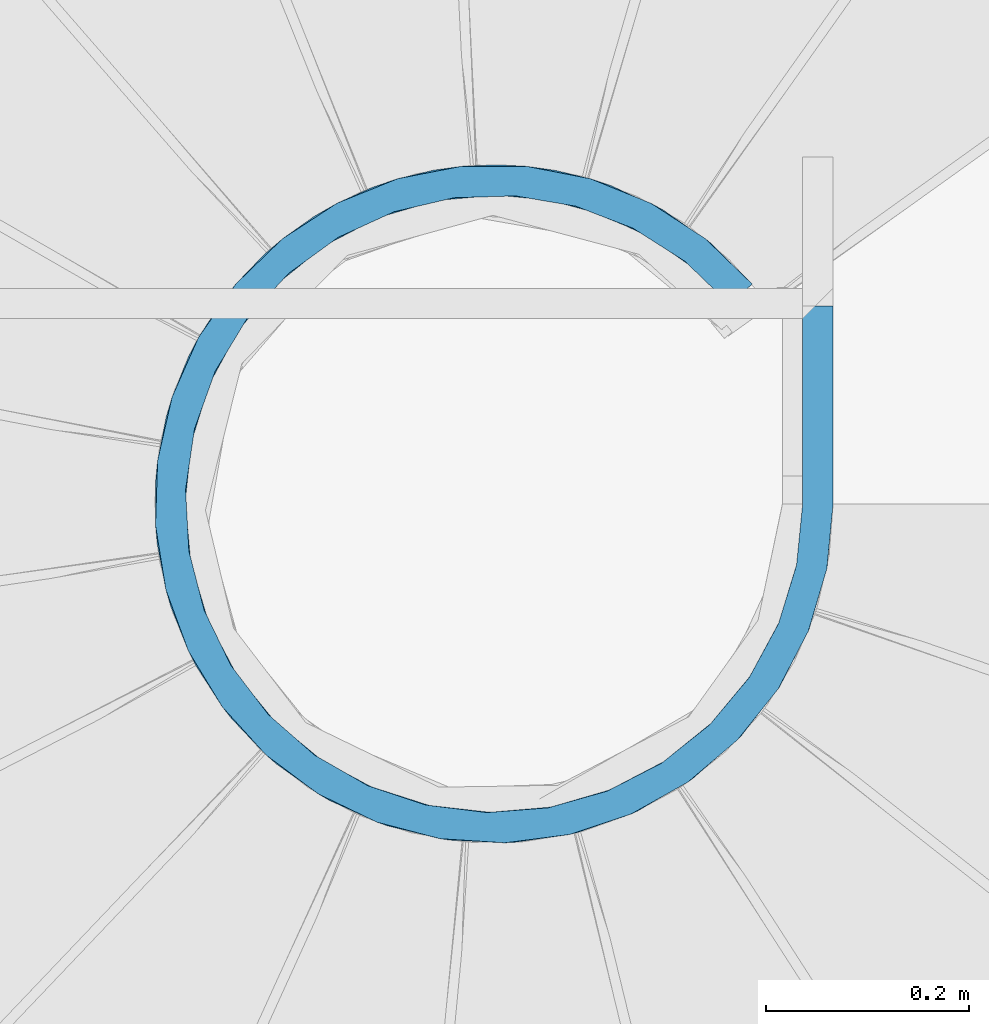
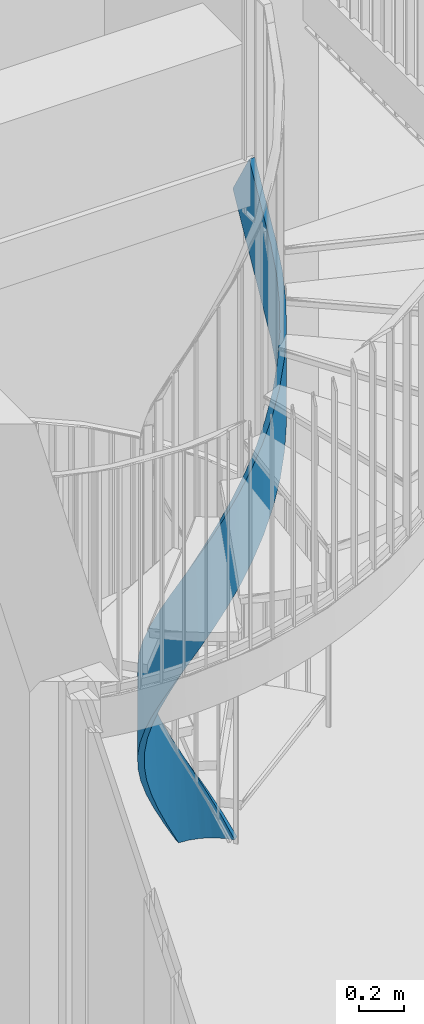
# One storey, part 14 of 21: 1 member, 1 element without a shape of its own.
"""IFC2X3 building model written with IfcOpenShell, lengths in millimetres."""

from ifc_helpers import new_model, entity, si_unit, converted_unit, derived_unit, direction, frame, origin, place, context, subcontext, project, spatial, faceted_brep, material, type_object, element, aggregate, save


model = new_model("IFC2X3")

# Units and contexts
model_context = context("Model", 3, precision=0.01, world=origin(), true_north=direction((6.12303176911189e-17, 1.0)))
body_context = subcontext(model_context, "Body", "Model", "MODEL_VIEW")
ifc_project = project(units=[si_unit("LENGTHUNIT", "METRE", prefix="MILLI"), si_unit("AREAUNIT", "SQUARE_METRE"), si_unit("VOLUMEUNIT", "CUBIC_METRE"), converted_unit("PLANEANGLEUNIT", "DEGREE", entity("IfcRatioMeasure", 0.0174532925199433), si_unit("PLANEANGLEUNIT", "RADIAN"), dimensions=[0, 0, 0, 0, 0, 0, 0]), si_unit("MASSUNIT", "GRAM", prefix="KILO"), derived_unit("MASSDENSITYUNIT", [(si_unit("MASSUNIT", "GRAM", prefix="KILO"), 1), (si_unit("LENGTHUNIT", "METRE"), -3)]), derived_unit("MOMENTOFINERTIAUNIT", [(si_unit("LENGTHUNIT", "METRE"), 4)]), si_unit("TIMEUNIT", "SECOND"), si_unit("FREQUENCYUNIT", "HERTZ"), si_unit("THERMODYNAMICTEMPERATUREUNIT", "DEGREE_CELSIUS"), derived_unit("THERMALTRANSMITTANCEUNIT", [(si_unit("MASSUNIT", "GRAM", prefix="KILO"), 1), (si_unit("THERMODYNAMICTEMPERATUREUNIT", "KELVIN"), -1), (si_unit("TIMEUNIT", "SECOND"), -3)]), derived_unit("VOLUMETRICFLOWRATEUNIT", [(si_unit("LENGTHUNIT", "METRE"), 3), (si_unit("TIMEUNIT", "SECOND"), -1)]), si_unit("ELECTRICCURRENTUNIT", "AMPERE"), si_unit("ELECTRICVOLTAGEUNIT", "VOLT"), si_unit("POWERUNIT", "WATT"), si_unit("FORCEUNIT", "NEWTON", prefix="KILO"), si_unit("ILLUMINANCEUNIT", "LUX"), si_unit("LUMINOUSFLUXUNIT", "LUMEN"), si_unit("LUMINOUSINTENSITYUNIT", "CANDELA"), derived_unit("USERDEFINED", [(si_unit("MASSUNIT", "GRAM", prefix="KILO"), -1), (si_unit("LENGTHUNIT", "METRE"), -2), (si_unit("TIMEUNIT", "SECOND"), 3), (si_unit("LUMINOUSFLUXUNIT", "LUMEN"), 1)]), derived_unit("LINEARVELOCITYUNIT", [(si_unit("LENGTHUNIT", "METRE"), 1), (si_unit("TIMEUNIT", "SECOND"), -1)]), si_unit("PRESSUREUNIT", "PASCAL"), derived_unit("USERDEFINED", [(si_unit("LENGTHUNIT", "METRE"), -2), (si_unit("MASSUNIT", "GRAM", prefix="KILO"), 1), (si_unit("TIMEUNIT", "SECOND"), -2)]), derived_unit("LINEARFORCEUNIT", [(si_unit("MASSUNIT", "GRAM", prefix="KILO"), 1), (si_unit("LENGTHUNIT", "METRE"), 1), (si_unit("TIMEUNIT", "SECOND"), -2), (si_unit("LENGTHUNIT", "METRE"), -1)]), derived_unit("PLANARFORCEUNIT", [(si_unit("MASSUNIT", "GRAM", prefix="KILO"), 1), (si_unit("LENGTHUNIT", "METRE"), 1), (si_unit("TIMEUNIT", "SECOND"), -2), (si_unit("LENGTHUNIT", "METRE"), -2)])], contexts=[model_context])

# Site, building, storey
site_placement = place(None, origin())
site = spatial("IfcSite", under=ifc_project, at=site_placement, Name="<Kadaster Gemeente>;<Kadaster nummer>;<Kadaster sectie>", CompositionType="ELEMENT")
building_placement = place(site_placement, origin())
building = spatial("IfcBuilding", under=site, at=building_placement, Name="JRCZ Middelburg", CompositionType="ELEMENT")
storey_placement = place(building_placement, origin())
storey = spatial("IfcBuildingStorey", under=building, at=storey_placement, Name="00 begane grond", CompositionType="ELEMENT", Elevation=0.0)

# Stair, member
stair_placement = place(storey_placement, origin())
stair = element("IfcStair", 1, at=stair_placement, inside=storey, Name="Assembled Stair:Stair", ObjectType="Assembled Stair:Vluchttrap", ShapeType="SPIRAL_STAIR")
ifc_material = material(Name="<Unnamed>")
member_type = type_object("IfcMemberType", Name="Stringer:Stringer - vluchttrap", PredefinedType="STRINGER")
member_placement = place(stair_placement, frame((18388.148509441, 22525.5856694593, -1.5952722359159)))
member = element("IfcMember", 2, at=member_placement, type_object=member_type, material=ifc_material, Name="Assembled Stair:Stair:2451970 Stringer 1", ObjectType="Stringer:Stringer - vluchttrap", context=body_context, shape_type="Brep", body=[
    faceted_brep([(395.509599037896, 664.549875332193, 1.5952722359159), (450.640951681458, 649.473774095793, 1.5952722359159), (476.519693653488, 637.350266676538, 1.5952722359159), (502.39843562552, 625.226759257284, 1.5952722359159), (525.83379651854, 608.872170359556, 1.5952722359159), (537.551476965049, 600.69487591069, 1.5952722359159), (549.269157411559, 592.517581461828, 1.5952722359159), (559.49595320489, 582.391173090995, 1.5952722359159), (564.609351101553, 577.327968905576, 1.5952722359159), (569.722748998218, 572.264764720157, 1.5952722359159), (589.883065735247, 552.302344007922, 1.5952722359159), (580.785943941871, 544.565914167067, 1.59527223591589), (567.029692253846, 532.867238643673, 1.5952722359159), (548.678539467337, 551.03825437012, 1.5952722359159), (544.024012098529, 555.647092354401, 1.5952722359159), (539.369484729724, 560.255930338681, 1.5952722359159), (530.060429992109, 569.473606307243, 1.5952722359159), (519.394280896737, 576.917079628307, 1.5952722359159), (508.728131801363, 584.36055294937, 1.5952722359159), (487.39583361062, 599.247499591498, 1.5952722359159), (463.839420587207, 610.283057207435, 1.5952722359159), (440.283007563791, 621.318614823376, 1.5952722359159), (390.099079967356, 635.04180383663, 1.5952722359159), (338.310948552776, 640.015931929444, 1.5952722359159), (338.494504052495, 658.073058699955, 1.59527223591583), (338.61589078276, 670.014382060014, 1.5952722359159), (303.258549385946, 668.500502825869, 579.181479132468), (335.356765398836, 655.721594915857, 521.422861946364), (367.466073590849, 668.472615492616, 463.664237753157), (545.865526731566, 573.223614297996, 85.9653517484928), (523.427578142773, 574.846678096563, 121.238129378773), (529.74298202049, 568.766305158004, 103.908855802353), (536.058385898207, 562.68593221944, 86.5795822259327), (542.373789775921, 556.605559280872, 69.2503086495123), (548.68919365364, 550.525186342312, 51.921035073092), (151.045569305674, 74.0392451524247, 2040.01286118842), (93.0015676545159, 126.869362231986, 1892.31097546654), (110.412728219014, 88.2987726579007, 1965.38837568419), (295.740791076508, 637.460130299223, 599.809557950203), (282.267189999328, 651.176950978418, 621.555737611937), (509.645261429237, 603.410286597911, 174.871152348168), (489.987717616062, 632.047378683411, 232.629754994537), (455.321217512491, 631.985964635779, 290.38838739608), (460.235862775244, 644.108840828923, 290.388375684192), (430.484007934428, 656.17030297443, 348.146996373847), (649.543017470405, 291.274772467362, 3267.22519466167), (663.355128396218, 271.817561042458, 3236.07803085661), (657.579156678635, 335.728340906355, 3351.59527223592), (641.507221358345, 244.814381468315, 3178.31941024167), (415.905283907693, 629.139371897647, 360.523843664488), (403.644677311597, 648.018142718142, 392.14753822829), (215.156180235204, 632.62322129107, 752.457342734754), (240.229952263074, 656.252936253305, 694.698720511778), (180.705310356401, 632.181709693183, 810.215961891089), (543.782202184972, 596.993700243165, 117.112513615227), (22.6319122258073, 407.1760608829, 1330.04354853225), (17.9789354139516, 441.171298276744, 1272.28492740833), (3.67199640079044, 378.578020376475, 1387.80216878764), (18.6097774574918, 284.630881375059, 1561.07803116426), (34.475769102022, 289.309098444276, 1556.95241509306), (31.237623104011, 349.748589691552, 1437.3095579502), (11.8253700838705, 251.016765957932, 1618.83665154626), (32.0858126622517, 233.447242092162, 1660.41009793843), (15.8136704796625, 354.981379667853, 1428.83279903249), (40.0253973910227, 409.633418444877, 1317.66670080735), (112.367711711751, 566.006739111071, 983.491824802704), (126.880396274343, 597.174773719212, 925.733203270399), (80.7407284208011, 552.52348042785, 1041.25044464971), (60.929599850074, 169.54298587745, 1792.11251384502), (76.0467021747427, 176.257792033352, 1796.23812937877), (49.6117293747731, 230.706023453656, 1676.59527223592), (78.0630321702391, 526.185863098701, 1082.16442635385), (91.8260657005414, 518.378216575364, 1078.38098652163), (33.9849173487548, 190.754328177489, 1734.35389292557), (67.2564823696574, 135.839759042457, 1849.87113430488), (39.9418938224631, 458.308517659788, 1228.68800227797), (168.149096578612, 608.606914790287, 851.59756392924), (181.761593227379, 598.505248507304, 839.095272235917), (1.5952722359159, 314.404083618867, 1503.31941016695), (669.521096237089, 335.728340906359, 3351.59527223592), (530.333581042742, 605.75711985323, 145.991823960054), (516.884959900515, 614.52053946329, 174.871134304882), (569.77430198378, 571.79629390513, 51.9828081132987), (563.276277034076, 578.095645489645, 68.2652344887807), (556.778252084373, 584.394997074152, 84.5476608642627), (550.280227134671, 590.694348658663, 100.830087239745), (472.379596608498, 607.366230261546, 240.880986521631), (497.903587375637, 591.106454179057, 181.059557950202), (510.665582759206, 582.976566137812, 151.148843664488), (618.636678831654, 187.852905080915, 3062.80216886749), (645.084677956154, 210.264351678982, 3120.5607894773), (444.142440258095, 618.252801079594, 300.702415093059), (356.238850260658, 639.30472420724, 480.166700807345), (236.804502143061, 623.678565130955, 719.45241509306), (547.89915984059, 118.088413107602, 2873.02384366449), (589.656804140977, 142.161956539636, 2961.04301152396), (586.766313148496, 164.486280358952, 2992.66670080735), (132.789646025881, 562.936075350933, 958.738129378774), (60.4914341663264, 466.594449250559, 1198.02384366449), (575.3478587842, 103.142331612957, 2889.52630671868), (615.383713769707, 153.339316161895, 3005.04354809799), (615.681821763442, 217.658745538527, 3112.3095579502), (633.501743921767, 275.502224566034, 3231.95241509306), (219.705486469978, 22.0157120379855, 2196.42285844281), (196.062190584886, 46.906313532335, 2138.66423791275), (161.861687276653, 49.8850829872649, 2080.9056170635), (43.9883282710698, 499.874947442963, 1156.76768602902), (314.638084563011, 15.9365782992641, 2369.69872064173), (262.708064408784, 24.0474547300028, 2271.02611721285), (281.810356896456, 5.71871809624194, 2311.94009982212), (112.734879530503, 128.118459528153, 1915.88098652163), (158.224821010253, 88.1924915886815, 2035.52384366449), (210.716874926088, 58.0594205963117, 2155.16670080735), (345.885345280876, 1.5952722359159, 2427.45734120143), (268.134375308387, 38.911356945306, 2274.8095579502), (328.205797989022, 31.5058273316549, 2394.45241509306), (384.729140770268, 19.6218903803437, 2501.59297909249), (436.096805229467, 31.7796908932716, 2600.73320337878), (409.56682372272, 9.79748204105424, 2542.97458258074), (470.505680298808, 30.022780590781, 2658.49182396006), (526.453974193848, 61.525087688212, 2774.00906533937), (542.627078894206, 92.0542010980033, 2831.76768612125), (499.240359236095, 61.1228312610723, 2731.63480554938), (639.521096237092, 335.728340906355, 3351.59527223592), (500.618005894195, 80.3007144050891, 2753.38098652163), (446.79336610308, 52.6181234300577, 2633.73812937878), (388.554625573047, 36.135805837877, 2514.09527223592), (278.761298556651, 634.74869296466, 119.762600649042), (221.390579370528, 617.940801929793, 237.92992906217), (168.413006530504, 590.24095721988, 356.097257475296), (121.873242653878, 552.71823078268, 474.264585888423), (83.5674839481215, 506.820807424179, 592.43191430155), (54.974136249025, 454.320092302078, 710.599242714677), (37.1967561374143, 397.242343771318, 828.766571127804), (30.9214593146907, 337.790470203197, 946.933899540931), (36.3904400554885, 278.259009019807, 1065.10122795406), (53.39262375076, 220.945569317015, 1183.26855636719), (81.2718133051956, 168.062155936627, 1301.43588478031), (118.952014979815, 121.649797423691, 1419.60321319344), (164.97896623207, 83.4997727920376, 1537.77054160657), (274.713918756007, 37.5005957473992, 1774.10519843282), (217.576262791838, 55.0844773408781, 1655.93787001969), (334.186713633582, 31.4267756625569, 1892.27252684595), (393.699302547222, 37.0974353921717, 2010.43985525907), (450.954804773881, 54.2937165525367, 2128.6071836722), (503.743451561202, 82.3519308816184, 2246.77451208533), (550.027871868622, 120.189175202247, 2364.94184049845), (588.021724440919, 166.345125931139, 2483.10916891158), (616.258641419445, 219.038400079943, 2601.27649732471), (633.648822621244, 276.235307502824, 2719.44382573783), (639.521096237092, 335.728340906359, 2837.61115415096), (275.782977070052, 664.705860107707, 115.035907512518), (158.621110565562, 619.580977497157, 341.91717806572), (215.064637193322, 647.692963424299, 228.476542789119), (108.46054713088, 581.370071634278, 455.357813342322), (66.3675613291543, 534.41971490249, 568.798448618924), (33.8397390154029, 480.400308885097, 682.239083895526), (12.0343562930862, 421.233758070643, 795.679719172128), (1.7272059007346, 359.025092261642, 909.120354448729), (3.28499602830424, 295.987573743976, 1022.56098972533), (16.6523035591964, 234.363953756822, 1136.00162500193), (41.3535459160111, 176.346679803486, 1249.44226027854), (76.5099013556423, 123.999892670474, 1362.88289555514), (120.870575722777, 79.1859883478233, 1476.32353083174), (172.857303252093, 43.4993576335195, 1589.76416610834), (230.620498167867, 18.2096608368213, 1703.20480138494), (292.105059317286, 4.21665575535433, 1816.64543666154), (417.433708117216, 11.6924689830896, 2043.52670721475), (355.123486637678, 2.01818605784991, 1930.08607193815), (476.818848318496, 32.8953125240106, 2156.96734249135), (531.166100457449, 64.8723611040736, 2270.40797776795), (578.54189592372, 106.485934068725, 2383.84861304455), (617.260696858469, 156.255502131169, 2497.28924832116), (645.944964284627, 212.410361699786, 2610.72988359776), (663.574168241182, 272.952633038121, 2724.17051887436), (669.521096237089, 335.72834090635, 2837.61115415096), (192.680823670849, 621.91547622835, 285.196860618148), (146.353038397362, 593.752753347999, 387.146779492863), (113.10152271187, 105.381838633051, 1433.57764673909), (200.583702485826, 45.5449475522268, 1633.43649490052), (96.9112483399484, 549.380255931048, 512.078131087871), (249.010287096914, 643.399409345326, 171.756225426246), (294.895810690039, 650.393169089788, 84.2354236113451), (64.8454771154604, 506.775734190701, 612.263648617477), (65.3812031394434, 163.668652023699, 1291.88596894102), (20.8878104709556, 275.461911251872, 1064.76162913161), (14.804736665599, 327.810258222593, 965.840672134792), (40.2179486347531, 210.130188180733, 1192.72194267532), (20.8198567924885, 395.49754927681, 838.185574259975), (34.657496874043, 446.497550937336, 738.959401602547), (153.746322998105, 71.3686291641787, 1533.0438484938), (271.75938489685, 22.0271988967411, 1774.44479653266), (641.996680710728, 246.397900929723, 2667.45020124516), (619.941283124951, 190.289726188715, 2554.00956596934), (657.579156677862, 335.728340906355, 2837.61115415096), (649.456493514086, 292.209964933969, 2754.97100441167), (591.309104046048, 144.250599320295, 2452.05964302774), (378.497598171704, 18.9885110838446, 1975.85902085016), (324.043194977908, 15.4123319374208, 1873.36575431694), (503.508075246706, 63.6313487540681, 2226.94277541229), (442.926154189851, 34.0576409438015, 2100.2470248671), (546.436337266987, 95.2624002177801, 2327.12829541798), (669.521096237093, 530.56783268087, 3701.59527223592), (639.521096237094, 530.56783268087, 3701.59527223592), (639.521096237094, 677.523636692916, 3451.59527223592), (669.521096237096, 677.523636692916, 3451.59527223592)], [[[0, 1, 2, 3, 4, 5, 6, 7, 8, 9, 10, 11, 12, 13, 14, 15, 16, 17, 18, 19, 20, 21, 22, 23, 24, 25]], [[26, 27, 28]], [[29, 30, 31, 32, 33, 34, 12]], [[35, 36, 37]], [[38, 27, 39]], [[29, 12, 11]], [[40, 41, 42]], [[42, 41, 43, 44]], [[45, 46, 47]], [[46, 45, 48]], [[49, 42, 50]], [[51, 52, 53]], [[54, 29, 11]], [[55, 56, 57]], [[58, 59, 60]], [[58, 61, 62]], [[63, 60, 64]], [[65, 66, 67]], [[68, 69, 70]], [[71, 72, 65]], [[62, 73, 68]], [[68, 74, 36]], [[75, 56, 55]], [[51, 76, 77]], [[61, 73, 62]], [[74, 37, 36]], [[58, 78, 61]], [[46, 79, 47]], [[54, 40, 29]], [[40, 54, 80, 81, 41]], [[11, 10, 82, 83, 84, 85, 54]], [[29, 40, 30]], [[40, 86, 87, 88, 30]], [[48, 89, 90]], [[42, 49, 91, 86]], [[49, 50, 92]], [[40, 42, 86]], [[92, 27, 38]], [[42, 44, 50]], [[44, 28, 50]], [[93, 38, 39]], [[94, 95, 96]], [[77, 93, 51]], [[76, 97, 77]], [[50, 28, 27]], [[27, 26, 39]], [[97, 65, 72]], [[26, 52, 39]], [[72, 71, 98]], [[64, 75, 55]], [[50, 27, 92]], [[55, 63, 64]], [[99, 100, 95]], [[60, 63, 58]], [[96, 89, 101]], [[59, 58, 62]], [[101, 48, 102]], [[103, 104, 105]], [[57, 78, 63]], [[106, 56, 75]], [[107, 108, 109]], [[68, 73, 74]], [[110, 35, 111]], [[36, 110, 69]], [[108, 104, 103]], [[111, 104, 112]], [[104, 35, 105]], [[107, 109, 113]], [[63, 78, 58]], [[95, 100, 89]], [[114, 107, 115]], [[89, 100, 90]], [[71, 106, 75]], [[116, 107, 113]], [[48, 90, 46]], [[117, 118, 119]], [[75, 64, 98]], [[120, 121, 122]], [[103, 109, 108]], [[55, 57, 63]], [[121, 120, 99]], [[118, 117, 116]], [[112, 108, 114]], [[71, 75, 98]], [[123, 102, 45]], [[70, 62, 68]], [[69, 68, 36]], [[124, 121, 94]], [[95, 121, 99]], [[119, 120, 122]], [[110, 36, 35]], [[39, 51, 93]], [[111, 35, 104]], [[104, 108, 112]], [[51, 53, 76]], [[108, 107, 114]], [[125, 122, 124]], [[76, 66, 65]], [[115, 107, 116]], [[126, 117, 125]], [[126, 116, 117]], [[122, 125, 117]], [[122, 117, 119]], [[113, 118, 116]], [[122, 121, 124]], [[76, 65, 97]], [[121, 95, 94]], [[89, 96, 95]], [[65, 67, 71]], [[89, 48, 101]], [[115, 116, 126]], [[48, 45, 102]], [[53, 66, 76]], [[67, 106, 71]], [[59, 62, 70]], [[37, 105, 35]], [[39, 52, 51]], [[123, 45, 47]], [[20, 91, 21]], [[16, 15, 14, 13, 12, 34, 33, 32, 31, 30]], [[18, 87, 19]], [[20, 19, 86]], [[17, 30, 88]], [[20, 86, 91]], [[49, 22, 21]], [[23, 22, 92]], [[23, 92, 38]], [[127, 93, 128]], [[38, 127, 23]], [[129, 128, 77]], [[130, 129, 97]], [[49, 92, 22]], [[38, 93, 127]], [[131, 130, 72]], [[93, 77, 128]], [[91, 49, 21]], [[97, 129, 77]], [[17, 16, 30]], [[131, 72, 98]], [[97, 72, 130]], [[88, 18, 17]], [[98, 132, 131]], [[133, 132, 64]], [[134, 133, 60]], [[135, 134, 59]], [[88, 87, 18]], [[133, 64, 60]], [[135, 59, 70]], [[59, 134, 60]], [[70, 136, 135]], [[98, 64, 132]], [[87, 86, 19]], [[137, 136, 69]], [[138, 137, 110]], [[110, 137, 69]], [[112, 139, 111]], [[138, 110, 111]], [[138, 111, 139]], [[70, 69, 136]], [[140, 141, 112]], [[140, 112, 114]], [[142, 115, 143]], [[114, 142, 140]], [[144, 143, 126]], [[145, 144, 125]], [[139, 112, 141]], [[114, 115, 142]], [[146, 145, 124]], [[115, 126, 143]], [[125, 144, 126]], [[146, 124, 94]], [[125, 124, 145]], [[94, 147, 146]], [[148, 147, 96]], [[149, 148, 101]], [[150, 149, 102]], [[148, 96, 101]], [[150, 102, 123]], [[102, 149, 101]], [[94, 96, 147]], [[1, 43, 2]], [[84, 83, 82, 10, 9, 8, 7, 6, 54, 85]], [[3, 81, 4]], [[41, 3, 2]], [[80, 5, 4]], [[43, 41, 2]], [[1, 0, 44]], [[28, 0, 25]], [[26, 28, 25]], [[151, 26, 25]], [[152, 53, 153]], [[151, 153, 52]], [[66, 152, 154]], [[67, 154, 155]], [[0, 28, 44]], [[1, 44, 43]], [[151, 52, 26]], [[155, 156, 106]], [[153, 53, 52]], [[53, 152, 66]], [[54, 6, 5]], [[67, 155, 106]], [[154, 67, 66]], [[5, 80, 54]], [[156, 56, 106]], [[57, 157, 158]], [[78, 158, 159]], [[61, 159, 160]], [[4, 81, 80]], [[57, 56, 157]], [[61, 78, 159]], [[57, 158, 78]], [[160, 73, 61]], [[157, 56, 156]], [[3, 41, 81]], [[74, 161, 162]], [[37, 162, 163]], [[74, 73, 161]], [[105, 37, 163]], [[74, 162, 37]], [[163, 164, 105]], [[161, 73, 160]], [[103, 164, 165]], [[109, 103, 165]], [[166, 109, 165]], [[167, 118, 168]], [[166, 168, 113]], [[119, 167, 169]], [[119, 169, 170]], [[164, 103, 105]], [[166, 113, 109]], [[120, 170, 171]], [[168, 118, 113]], [[118, 167, 119]], [[99, 120, 171]], [[170, 120, 119]], [[171, 172, 99]], [[100, 172, 173]], [[90, 173, 174]], [[46, 174, 175]], [[90, 100, 173]], [[79, 46, 175]], [[90, 174, 46]], [[172, 100, 99]], [[176, 129, 177]], [[163, 162, 178]], [[165, 164, 179]], [[177, 130, 180]], [[181, 182, 127]], [[23, 182, 24]], [[151, 182, 181]], [[181, 128, 176]], [[131, 183, 180]], [[184, 178, 162]], [[135, 185, 186]], [[138, 184, 137]], [[184, 136, 137]], [[136, 187, 185]], [[133, 188, 189]], [[179, 139, 141]], [[190, 163, 178]], [[134, 186, 188]], [[183, 132, 189]], [[162, 161, 184]], [[191, 179, 141]], [[184, 187, 136]], [[23, 127, 182]], [[181, 153, 151]], [[182, 151, 24]], [[151, 25, 24]], [[152, 153, 176]], [[177, 152, 176]], [[192, 173, 193]], [[128, 181, 127]], [[155, 154, 180]], [[194, 195, 150]], [[155, 180, 183]], [[157, 156, 189]], [[129, 176, 128]], [[181, 176, 153]], [[192, 193, 148]], [[157, 189, 188]], [[154, 152, 177]], [[159, 158, 186]], [[186, 185, 159]], [[130, 177, 129]], [[161, 160, 187]], [[193, 172, 196]], [[184, 161, 187]], [[195, 192, 149]], [[178, 184, 138]], [[150, 195, 149]], [[191, 141, 140]], [[166, 165, 191]], [[167, 168, 197]], [[198, 140, 142]], [[139, 190, 178]], [[199, 200, 144]], [[197, 200, 167]], [[139, 179, 190]], [[197, 198, 142]], [[191, 165, 179]], [[147, 148, 193]], [[135, 186, 134]], [[188, 186, 158]], [[148, 149, 192]], [[144, 145, 199]], [[197, 142, 143]], [[146, 201, 145]], [[160, 159, 185]], [[198, 166, 191]], [[146, 147, 196]], [[200, 197, 143]], [[136, 185, 135]], [[200, 143, 144]], [[194, 175, 174]], [[190, 164, 163]], [[179, 164, 190]], [[177, 180, 154]], [[196, 171, 201]], [[191, 140, 198]], [[198, 168, 166]], [[156, 155, 183]], [[132, 183, 131]], [[168, 198, 197]], [[131, 180, 130]], [[169, 167, 200]], [[199, 145, 201]], [[170, 169, 199]], [[196, 201, 146]], [[183, 189, 156]], [[171, 170, 201]], [[134, 188, 133]], [[196, 147, 193]], [[172, 193, 173]], [[133, 189, 132]], [[174, 173, 192]], [[199, 169, 200]], [[174, 192, 195]], [[201, 170, 199]], [[158, 157, 188]], [[178, 138, 139]], [[185, 187, 160]], [[172, 171, 196]], [[174, 195, 194]], [[202, 203, 123, 47, 79]], [[150, 123, 203, 204]], [[205, 175, 194, 150, 204]], [[79, 175, 205, 202]], [[204, 203, 202, 205]]]),
])
aggregate(stair, [member])

save(model, "model.ifc")
